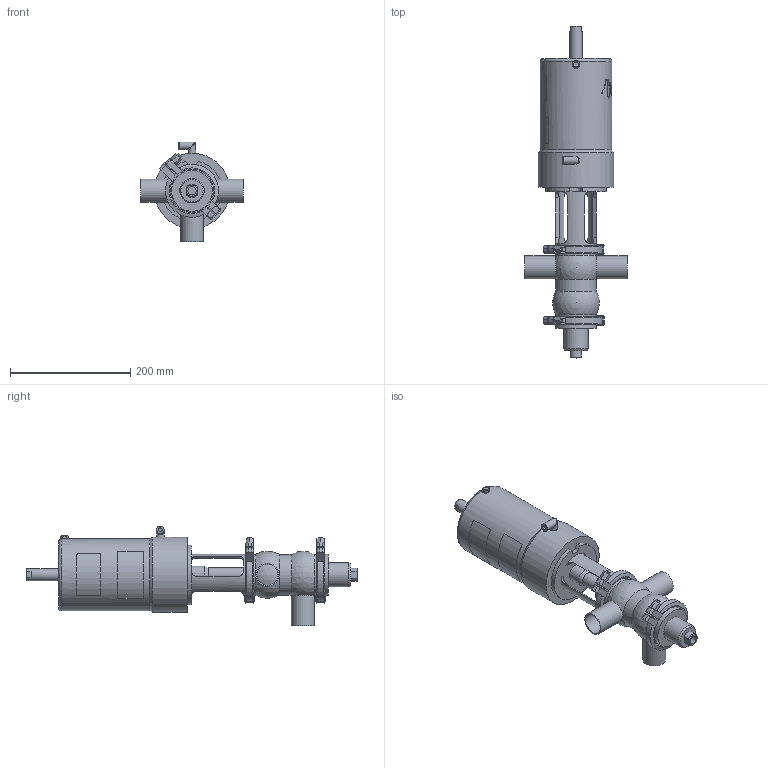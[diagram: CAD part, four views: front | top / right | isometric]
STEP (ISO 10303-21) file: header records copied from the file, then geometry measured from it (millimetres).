
FILE_DESCRIPTION (( 'STEP AP214' ), '1' );
FILE_NAME ('INNOVA S AB-90 W OD 1½_10.251.16.0001.STEP', '2024-08-20T12:10:40', ( '' ), ( '' ), 'SwSTEP 2.0', 'SolidWorks 2023', '' );
FILE_SCHEMA (( 'AUTOMOTIVE_DESIGN' ));
Length unit declared in the file: millimetre
Products named in the file (6): 10.250.15.0002_Type S T1; INNOVA S AB-90 W OD 1½_10.251.16.0001; 10.251.15.0003_OD 1½"; 10.251.15.0001_OD 1½"; 10.251.15.0002_DN 1½"; 10.240.15.0001_DN 040
Assembly tree (6 placements, depth 2):
  INNOVA S AB-90 W OD 1½_10.251.16.0001
    10.251.15.0001_OD 1½"
    10.250.15.0002_Type S T1
    10.251.15.0003_OD 1½"
    10.240.15.0001_DN 040  x2
    10.251.15.0002_DN 1½"
Bounding box: 170 x 551.2 x 166 mm (x, y, z)
Volume: 3330009.7 mm3; surface area: 285424.4 mm2
Topology: 6 solids, 6 shells, 425 faces, 1102 edges, 717 vertices
Faces by surface type: plane 202, cylinder 110, bspline 80, cone 27, sphere 5, torus 1
Full cylindrical faces by diameter (mm): 4.2 x2, 5 x1, 6 x1, 6.15 x1, 8 x4, 8.5 x1, 10.5 x2, 12.5 x6, 14 x1, 20 x1, 23 x1, 28 x1, 34.8 x3, 38.1 x3, 40.5 x1, 67.5 x3, 68 x2, 79.5 x4, 119.5 x1, 125 x1
Entity records: 21173 total; most frequent: CARTESIAN_POINT 11021, ORIENTED_EDGE 1728, DIRECTION 1355, EDGE_CURVE 864, VERTEX_POINT 592, AXIS2_PLACEMENT_3D 519, EDGE_LOOP 458, FACE_OUTER_BOUND 408
